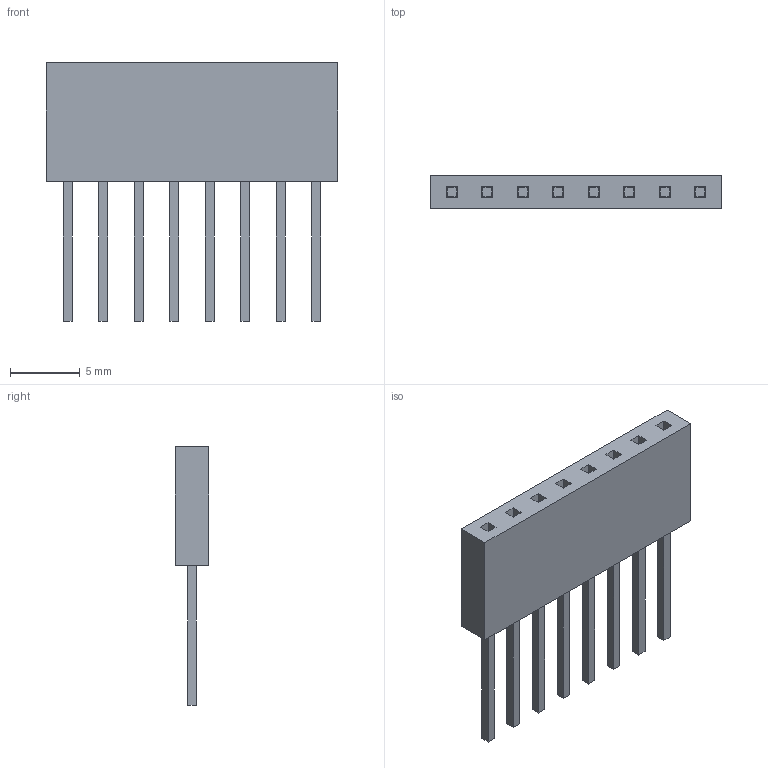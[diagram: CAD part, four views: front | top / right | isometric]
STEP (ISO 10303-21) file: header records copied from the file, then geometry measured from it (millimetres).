
FILE_DESCRIPTION(('FreeCAD Model'),'2;1');
FILE_NAME('Open CASCADE Shape Model','2026-10-14T23:10:09',('FreeCAD'),( 'FreeCAD'),'Open CASCADE STEP processor 7.9','FreeCAD','Unknown');
FILE_SCHEMA(('AUTOMOTIVE_DESIGN { 1 0 10303 214 1 1 1 1 }'));
Length unit declared in the file: millimetre
Products named in the file (1): Open CASCADE STEP translator 7.9 6
Bounding box: 20.83 x 2.41 x 18.51 mm (x, y, z)
Volume: 433.2 mm3; surface area: 914.9 mm2
Topology: 9 solids, 9 shells, 94 faces, 204 edges, 136 vertices
Faces by surface type: plane 94
Entity records: 2502 total; most frequent: CARTESIAN_POINT 435, ORIENTED_EDGE 408, DIRECTION 394, EDGE_CURVE 204, LINE 204, VECTOR 204, VERTEX_POINT 136, FACE_BOUND 102
